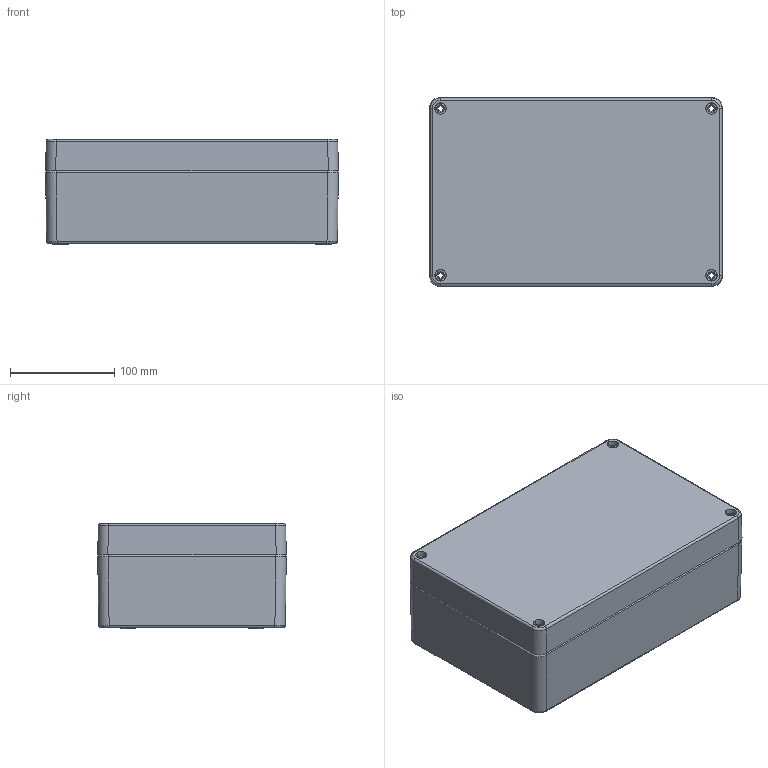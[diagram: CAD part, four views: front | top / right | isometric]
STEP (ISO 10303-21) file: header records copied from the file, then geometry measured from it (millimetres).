
FILE_DESCRIPTION (( 'STEP AP203' ), '1' );
FILE_NAME ('ALU ASSY 280180100.STEP', '2024-08-27T09:33:30', ( '' ), ( '' ), 'SwSTEP 2.0', 'SolidWorks 2018', '' );
FILE_SCHEMA (( 'CONFIG_CONTROL_DESIGN' ));
Length unit declared in the file: millimetre
Products named in the file (3): ALU BASE 280180100; ALU LID 280180100; ALU ASSY 280180100
Assembly tree (2 placements, depth 2):
  ALU ASSY 280180100
    ALU BASE 280180100
    ALU LID 280180100
Bounding box: 281 x 181 x 101 mm (x, y, z)
Volume: 980786.3 mm3; surface area: 397177.1 mm2
Topology: 2 solids, 2 shells, 665 faces, 1596 edges, 982 vertices
Faces by surface type: plane 240, cylinder 224, bspline 101, cone 100
Entity records: 26443 total; most frequent: CARTESIAN_POINT 11544, ORIENTED_EDGE 3136, DIRECTION 2810, EDGE_CURVE 1568, AXIS2_PLACEMENT_3D 994, VERTEX_POINT 982, LINE 822, VECTOR 822
